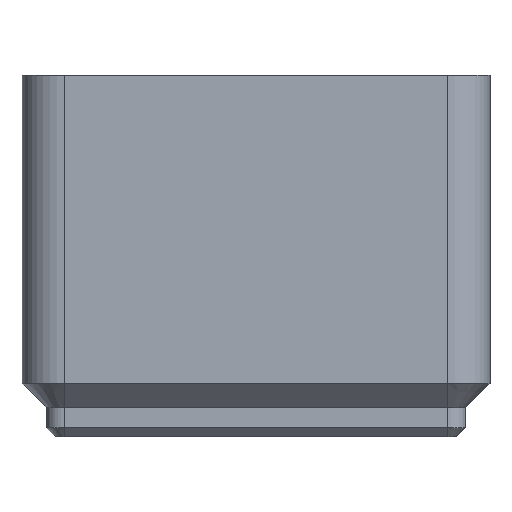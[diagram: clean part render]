
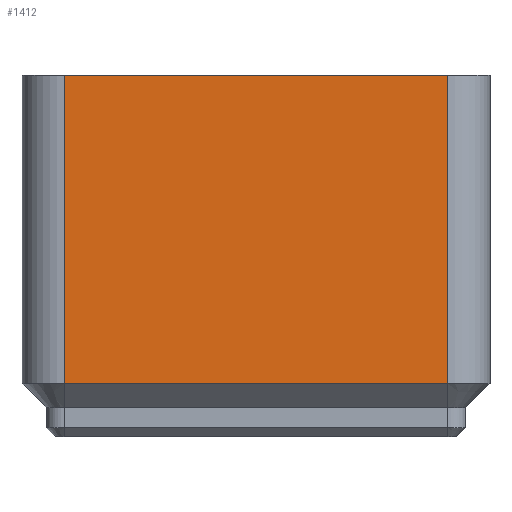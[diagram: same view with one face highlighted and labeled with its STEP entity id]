
A CAD part, front view. The second image highlights one B-rep face of the part: STEP entity #1412.
In plain terms, the highlighted planar face has unit normal (0, -1, 0).
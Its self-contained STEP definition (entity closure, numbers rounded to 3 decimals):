
#44 = CYLINDRICAL_SURFACE('',#45,3.75);
#45 = AXIS2_PLACEMENT_3D('',#46,#47,#48);
#46 = CARTESIAN_POINT('',(-17.,-38.,4.74));
#47 = DIRECTION('',(0.,0.,-1.));
#48 = DIRECTION('',(-1.,0.,0.));
#95 = PLANE('',#96);
#96 = AXIS2_PLACEMENT_3D('',#97,#98,#99);
#97 = CARTESIAN_POINT('',(0.,0.,32.1));
#98 = DIRECTION('',(0.,0.,1.));
#99 = DIRECTION('',(1.,0.,0.));
#172 = PLANE('',#173);
#173 = AXIS2_PLACEMENT_3D('',#174,#175,#176);
#174 = CARTESIAN_POINT('',(0.,0.,4.74));
#175 = DIRECTION('',(0.,0.,1.));
#176 = DIRECTION('',(1.,0.,0.));
#188 = VERTEX_POINT('',#189);
#189 = CARTESIAN_POINT('',(-17.,-41.75,4.74));
#215 = EDGE_CURVE('',#188,#216,#218,.T.);
#216 = VERTEX_POINT('',#217);
#217 = CARTESIAN_POINT('',(-17.,-41.75,32.1));
#218 = SURFACE_CURVE('',#219,(#223,#230),.PCURVE_S1.);
#219 = LINE('',#220,#221);
#220 = CARTESIAN_POINT('',(-17.,-41.75,4.74));
#221 = VECTOR('',#222,1.);
#222 = DIRECTION('',(0.,0.,1.));
#223 = PCURVE('',#44,#224);
#224 = DEFINITIONAL_REPRESENTATION('',(#225),#229);
#225 = LINE('',#226,#227);
#226 = CARTESIAN_POINT('',(4.712,0.));
#227 = VECTOR('',#228,1.);
#228 = DIRECTION('',(0.,-1.));
#229 = ( GEOMETRIC_REPRESENTATION_CONTEXT(2) 
PARAMETRIC_REPRESENTATION_CONTEXT() REPRESENTATION_CONTEXT('2D SPACE',''
  ) );
#230 = PCURVE('',#231,#236);
#231 = PLANE('',#232);
#232 = AXIS2_PLACEMENT_3D('',#233,#234,#235);
#233 = CARTESIAN_POINT('',(-17.,-41.75,4.74));
#234 = DIRECTION('',(0.,1.,0.));
#235 = DIRECTION('',(1.,0.,0.));
#236 = DEFINITIONAL_REPRESENTATION('',(#237),#241);
#237 = LINE('',#238,#239);
#238 = CARTESIAN_POINT('',(0.,0.));
#239 = VECTOR('',#240,1.);
#240 = DIRECTION('',(0.,-1.));
#241 = ( GEOMETRIC_REPRESENTATION_CONTEXT(2) 
PARAMETRIC_REPRESENTATION_CONTEXT() REPRESENTATION_CONTEXT('2D SPACE',''
  ) );
#276 = EDGE_CURVE('',#188,#277,#279,.T.);
#277 = VERTEX_POINT('',#278);
#278 = CARTESIAN_POINT('',(17.,-41.75,4.74));
#279 = SURFACE_CURVE('',#280,(#284,#291),.PCURVE_S1.);
#280 = LINE('',#281,#282);
#281 = CARTESIAN_POINT('',(0.,-41.75,4.74));
#282 = VECTOR('',#283,1.);
#283 = DIRECTION('',(1.,0.,0.));
#284 = PCURVE('',#172,#285);
#285 = DEFINITIONAL_REPRESENTATION('',(#286),#290);
#286 = LINE('',#287,#288);
#287 = CARTESIAN_POINT('',(0.,-41.75));
#288 = VECTOR('',#289,1.);
#289 = DIRECTION('',(1.,0.));
#290 = ( GEOMETRIC_REPRESENTATION_CONTEXT(2) 
PARAMETRIC_REPRESENTATION_CONTEXT() REPRESENTATION_CONTEXT('2D SPACE',''
  ) );
#291 = PCURVE('',#231,#292);
#292 = DEFINITIONAL_REPRESENTATION('',(#293),#297);
#293 = LINE('',#294,#295);
#294 = CARTESIAN_POINT('',(17.,0.));
#295 = VECTOR('',#296,1.);
#296 = DIRECTION('',(1.,0.));
#297 = ( GEOMETRIC_REPRESENTATION_CONTEXT(2) 
PARAMETRIC_REPRESENTATION_CONTEXT() REPRESENTATION_CONTEXT('2D SPACE',''
  ) );
#320 = CYLINDRICAL_SURFACE('',#321,3.75);
#321 = AXIS2_PLACEMENT_3D('',#322,#323,#324);
#322 = CARTESIAN_POINT('',(17.,-38.,4.74));
#323 = DIRECTION('',(0.,0.,-1.));
#324 = DIRECTION('',(-1.,0.,0.));
#1067 = EDGE_CURVE('',#216,#1068,#1070,.T.);
#1068 = VERTEX_POINT('',#1069);
#1069 = CARTESIAN_POINT('',(17.,-41.75,32.1));
#1070 = SURFACE_CURVE('',#1071,(#1075,#1082),.PCURVE_S1.);
#1071 = LINE('',#1072,#1073);
#1072 = CARTESIAN_POINT('',(0.,-41.75,32.1));
#1073 = VECTOR('',#1074,1.);
#1074 = DIRECTION('',(1.,0.,0.));
#1075 = PCURVE('',#95,#1076);
#1076 = DEFINITIONAL_REPRESENTATION('',(#1077),#1081);
#1077 = LINE('',#1078,#1079);
#1078 = CARTESIAN_POINT('',(0.,-41.75));
#1079 = VECTOR('',#1080,1.);
#1080 = DIRECTION('',(1.,0.));
#1081 = ( GEOMETRIC_REPRESENTATION_CONTEXT(2) 
PARAMETRIC_REPRESENTATION_CONTEXT() REPRESENTATION_CONTEXT('2D SPACE',''
  ) );
#1082 = PCURVE('',#231,#1083);
#1083 = DEFINITIONAL_REPRESENTATION('',(#1084),#1088);
#1084 = LINE('',#1085,#1086);
#1085 = CARTESIAN_POINT('',(17.,-27.36));
#1086 = VECTOR('',#1087,1.);
#1087 = DIRECTION('',(1.,0.));
#1088 = ( GEOMETRIC_REPRESENTATION_CONTEXT(2) 
PARAMETRIC_REPRESENTATION_CONTEXT() REPRESENTATION_CONTEXT('2D SPACE',''
  ) );
#1412 = ADVANCED_FACE('',(#1413),#231,.F.);
#1413 = FACE_BOUND('',#1414,.F.);
#1414 = EDGE_LOOP('',(#1415,#1416,#1417,#1418));
#1415 = ORIENTED_EDGE('',*,*,#276,.F.);
#1416 = ORIENTED_EDGE('',*,*,#215,.T.);
#1417 = ORIENTED_EDGE('',*,*,#1067,.T.);
#1418 = ORIENTED_EDGE('',*,*,#1419,.F.);
#1419 = EDGE_CURVE('',#277,#1068,#1420,.T.);
#1420 = SURFACE_CURVE('',#1421,(#1425,#1432),.PCURVE_S1.);
#1421 = LINE('',#1422,#1423);
#1422 = CARTESIAN_POINT('',(17.,-41.75,4.74));
#1423 = VECTOR('',#1424,1.);
#1424 = DIRECTION('',(0.,0.,1.));
#1425 = PCURVE('',#231,#1426);
#1426 = DEFINITIONAL_REPRESENTATION('',(#1427),#1431);
#1427 = LINE('',#1428,#1429);
#1428 = CARTESIAN_POINT('',(34.,0.));
#1429 = VECTOR('',#1430,1.);
#1430 = DIRECTION('',(0.,-1.));
#1431 = ( GEOMETRIC_REPRESENTATION_CONTEXT(2) 
PARAMETRIC_REPRESENTATION_CONTEXT() REPRESENTATION_CONTEXT('2D SPACE',''
  ) );
#1432 = PCURVE('',#320,#1433);
#1433 = DEFINITIONAL_REPRESENTATION('',(#1434),#1438);
#1434 = LINE('',#1435,#1436);
#1435 = CARTESIAN_POINT('',(4.712,0.));
#1436 = VECTOR('',#1437,1.);
#1437 = DIRECTION('',(0.,-1.));
#1438 = ( GEOMETRIC_REPRESENTATION_CONTEXT(2) 
PARAMETRIC_REPRESENTATION_CONTEXT() REPRESENTATION_CONTEXT('2D SPACE',''
  ) );
